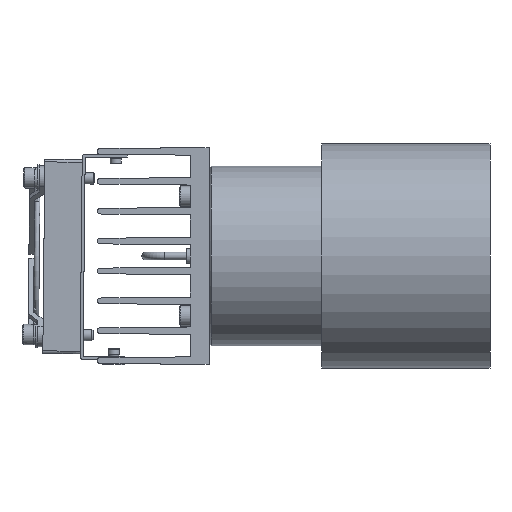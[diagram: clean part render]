
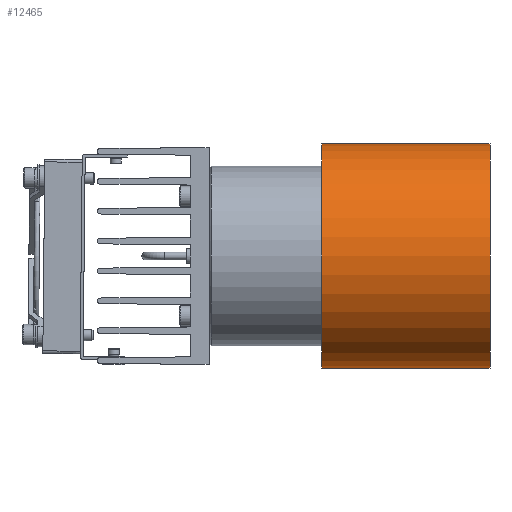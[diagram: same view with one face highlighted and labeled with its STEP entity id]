
A CAD part, left-side view. The second image highlights one B-rep face of the part: STEP entity #12465.
In plain terms, the highlighted cylindrical face has radius 30 mm (diameter 60 mm), a full revolution.
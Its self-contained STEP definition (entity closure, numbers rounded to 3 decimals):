
#1692=LINE('',#20759,#2688);
#2688=VECTOR('',#16902,30.);
#3103=CYLINDRICAL_SURFACE('',#13921,30.);
#3530=FACE_OUTER_BOUND('',#4254,.T.);
#4254=EDGE_LOOP('',(#10518,#10519,#10520,#10521,#10522,#10523));
#4968=CIRCLE('',#13919,30.);
#4969=CIRCLE('',#13920,30.);
#4970=CIRCLE('',#13922,30.);
#4971=CIRCLE('',#13923,30.);
#6037=VERTEX_POINT('',#20750);
#6038=VERTEX_POINT('',#20751);
#6039=VERTEX_POINT('',#20755);
#6040=VERTEX_POINT('',#20756);
#7600=EDGE_CURVE('',#6037,#6038,#4968,.T.);
#7601=EDGE_CURVE('',#6038,#6037,#4969,.T.);
#7602=EDGE_CURVE('',#6039,#6040,#4970,.T.);
#7603=EDGE_CURVE('',#6040,#6039,#4971,.T.);
#7604=EDGE_CURVE('',#6040,#6038,#1692,.T.);
#10518=ORIENTED_EDGE('',*,*,#7602,.F.);
#10519=ORIENTED_EDGE('',*,*,#7603,.F.);
#10520=ORIENTED_EDGE('',*,*,#7604,.T.);
#10521=ORIENTED_EDGE('',*,*,#7601,.T.);
#10522=ORIENTED_EDGE('',*,*,#7600,.T.);
#10523=ORIENTED_EDGE('',*,*,#7604,.F.);
#12465=ADVANCED_FACE('',(#3530),#3103,.T.);
#13919=AXIS2_PLACEMENT_3D('',#20752,#16892,#16893);
#13920=AXIS2_PLACEMENT_3D('',#20753,#16894,#16895);
#13921=AXIS2_PLACEMENT_3D('',#20754,#16896,#16897);
#13922=AXIS2_PLACEMENT_3D('',#20757,#16898,#16899);
#13923=AXIS2_PLACEMENT_3D('',#20758,#16900,#16901);
#16892=DIRECTION('center_axis',(0.,-1.,0.));
#16893=DIRECTION('ref_axis',(1.,0.,0.));
#16894=DIRECTION('center_axis',(0.,-1.,0.));
#16895=DIRECTION('ref_axis',(1.,0.,0.));
#16896=DIRECTION('center_axis',(0.,-1.,0.));
#16897=DIRECTION('ref_axis',(1.,0.,0.));
#16898=DIRECTION('center_axis',(0.,-1.,0.));
#16899=DIRECTION('ref_axis',(1.,0.,0.));
#16900=DIRECTION('center_axis',(0.,-1.,0.));
#16901=DIRECTION('ref_axis',(1.,0.,0.));
#16902=DIRECTION('',(0.,1.,0.));
#20750=CARTESIAN_POINT('',(30.,45.,0.));
#20751=CARTESIAN_POINT('',(-30.,45.,0.));
#20752=CARTESIAN_POINT('Origin',(0.,45.,0.));
#20753=CARTESIAN_POINT('Origin',(0.,45.,0.));
#20754=CARTESIAN_POINT('Origin',(0.,22.5,0.));
#20755=CARTESIAN_POINT('',(30.,0.,0.));
#20756=CARTESIAN_POINT('',(-30.,0.,0.));
#20757=CARTESIAN_POINT('Origin',(0.,0.,0.));
#20758=CARTESIAN_POINT('Origin',(0.,0.,0.));
#20759=CARTESIAN_POINT('',(-30.,22.5,0.));
